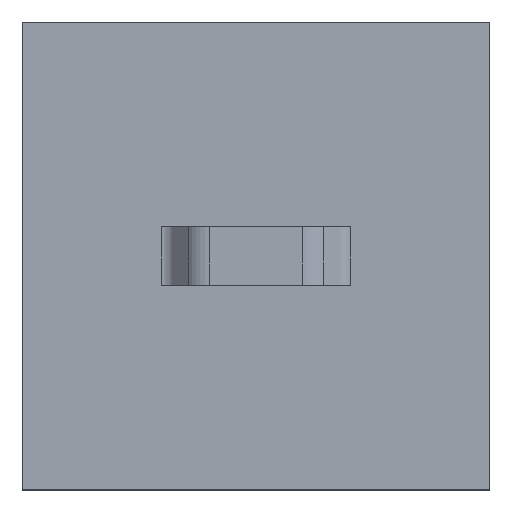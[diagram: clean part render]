
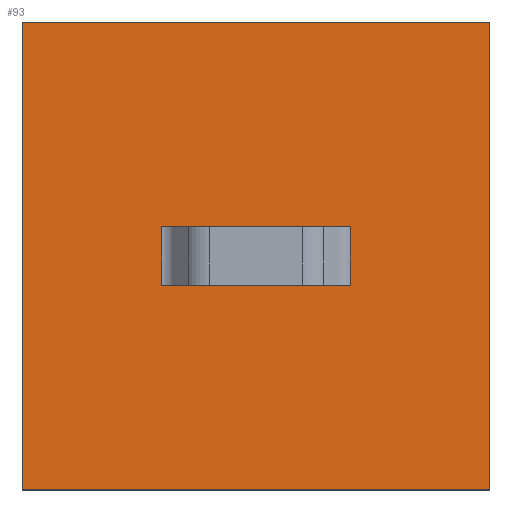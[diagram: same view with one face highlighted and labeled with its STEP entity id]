
A CAD part, top view. The second image highlights one B-rep face of the part: STEP entity #93.
In plain terms, the highlighted planar face has unit normal (0, 0, 1).
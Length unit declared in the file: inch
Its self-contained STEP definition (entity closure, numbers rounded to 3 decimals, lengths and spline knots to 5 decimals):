
#93=ADVANCED_FACE('',(#136,#137),#138,.T.);
#136=FACE_OUTER_BOUND('',#186,.T.);
#137=FACE_BOUND('',#187,.T.);
#138=PLANE('',#188);
#186=EDGE_LOOP('',(#352,#353,#354,#355));
#187=EDGE_LOOP('',(#356,#357,#358,#359,#360,#361,#362,#363));
#188=AXIS2_PLACEMENT_3D('',#364,#365,#366);
#352=ORIENTED_EDGE('',*,*,#466,.F.);
#353=ORIENTED_EDGE('',*,*,#467,.T.);
#354=ORIENTED_EDGE('',*,*,#468,.T.);
#355=ORIENTED_EDGE('',*,*,#415,.F.);
#356=ORIENTED_EDGE('',*,*,#447,.F.);
#357=ORIENTED_EDGE('',*,*,#418,.F.);
#358=ORIENTED_EDGE('',*,*,#413,.F.);
#359=ORIENTED_EDGE('',*,*,#426,.F.);
#360=ORIENTED_EDGE('',*,*,#453,.T.);
#361=ORIENTED_EDGE('',*,*,#432,.T.);
#362=ORIENTED_EDGE('',*,*,#469,.T.);
#363=ORIENTED_EDGE('',*,*,#440,.T.);
#364=CARTESIAN_POINT('',(0.0,0.44042,-0.05599));
#365=DIRECTION('',(0.0,0.0,1.0));
#366=DIRECTION('',(1.0,0.0,0.0));
#413=EDGE_CURVE('',#485,#477,#487,.T.);
#415=EDGE_CURVE('',#488,#491,#492,.T.);
#418=EDGE_CURVE('',#477,#496,#497,.T.);
#426=EDGE_CURVE('',#510,#485,#512,.T.);
#432=EDGE_CURVE('',#522,#523,#524,.T.);
#440=EDGE_CURVE('',#539,#537,#540,.T.);
#447=EDGE_CURVE('',#496,#537,#551,.T.);
#453=EDGE_CURVE('',#510,#522,#557,.T.);
#466=EDGE_CURVE('',#574,#488,#575,.T.);
#467=EDGE_CURVE('',#574,#576,#577,.T.);
#468=EDGE_CURVE('',#576,#491,#578,.T.);
#469=EDGE_CURVE('',#523,#539,#579,.T.);
#477=VERTEX_POINT('',#589);
#485=VERTEX_POINT('',#599);
#487=LINE('',#602,#603);
#488=VERTEX_POINT('',#604);
#491=VERTEX_POINT('',#608);
#492=LINE('',#609,#610);
#496=VERTEX_POINT('',#616);
#497=LINE('',#617,#618);
#510=VERTEX_POINT('',#634);
#512=LINE('',#636,#637);
#522=VERTEX_POINT('',#650);
#523=VERTEX_POINT('',#651);
#524=LINE('',#652,#653);
#537=VERTEX_POINT('',#669);
#539=VERTEX_POINT('',#671);
#540=LINE('',#672,#673);
#551=LINE('',#688,#689);
#557=LINE('',#700,#701);
#574=VERTEX_POINT('',#728);
#575=LINE('',#729,#730);
#576=VERTEX_POINT('',#731);
#577=LINE('',#732,#733);
#578=LINE('',#734,#735);
#579=LINE('',#736,#737);
#589=CARTESIAN_POINT('',(0.2871,-0.30958,-0.05599));
#599=CARTESIAN_POINT('',(-0.2871,-0.30958,-0.05599));
#602=CARTESIAN_POINT('',(0.0,-0.30958,-0.05599));
#603=VECTOR('',#761,1.0);
#604=CARTESIAN_POINT('',(1.0,-1.18458,-0.05599));
#608=CARTESIAN_POINT('',(-1.0,-1.18458,-0.05599));
#609=CARTESIAN_POINT('',(0.0,-1.18458,-0.05599));
#610=VECTOR('',#763,1.0);
#616=CARTESIAN_POINT('',(0.40229,-0.30958,-0.05599));
#617=CARTESIAN_POINT('',(0.35057,-0.30958,-0.05599));
#618=VECTOR('',#766,1.0);
#634=CARTESIAN_POINT('',(-0.40229,-0.30958,-0.05599));
#636=CARTESIAN_POINT('',(0.35057,-0.30958,-0.05599));
#637=VECTOR('',#782,1.0);
#650=CARTESIAN_POINT('',(-0.40229,-0.05958,-0.05599));
#651=CARTESIAN_POINT('',(-0.2871,-0.05958,-0.05599));
#652=CARTESIAN_POINT('',(0.0,-0.05958,-0.05599));
#653=VECTOR('',#792,1.0);
#669=CARTESIAN_POINT('',(0.40229,-0.05958,-0.05599));
#671=CARTESIAN_POINT('',(0.2871,-0.05958,-0.05599));
#672=CARTESIAN_POINT('',(0.0,-0.05958,-0.05599));
#673=VECTOR('',#808,1.0);
#688=CARTESIAN_POINT('',(0.40229,-0.30958,-0.05599));
#689=VECTOR('',#819,1.0);
#700=CARTESIAN_POINT('',(-0.40229,-0.30958,-0.05599));
#701=VECTOR('',#825,1.0);
#728=CARTESIAN_POINT('',(1.0,0.81542,-0.05599));
#729=CARTESIAN_POINT('',(1.0,-0.80958,-0.05599));
#730=VECTOR('',#842,1.0);
#731=CARTESIAN_POINT('',(-1.0,0.81542,-0.05599));
#732=CARTESIAN_POINT('',(0.0,0.81542,-0.05599));
#733=VECTOR('',#843,1.0);
#734=CARTESIAN_POINT('',(-1.0,0.44042,-0.05599));
#735=VECTOR('',#844,1.0);
#736=CARTESIAN_POINT('',(0.0,-0.05958,-0.05599));
#737=VECTOR('',#845,1.0);
#761=DIRECTION('',(1.0,0.0,0.0));
#763=DIRECTION('',(-1.0,0.0,0.0));
#766=DIRECTION('',(1.0,0.0,0.0));
#782=DIRECTION('',(1.0,0.0,0.0));
#792=DIRECTION('',(1.0,0.0,0.0));
#808=DIRECTION('',(1.0,0.0,0.0));
#819=DIRECTION('',(0.0,1.0,0.));
#825=DIRECTION('',(0.0,1.0,0.));
#842=DIRECTION('',(0.0,-1.0,0.0));
#843=DIRECTION('',(-1.0,0.0,0.0));
#844=DIRECTION('',(0.0,-1.0,0.0));
#845=DIRECTION('',(1.0,0.0,0.0));
